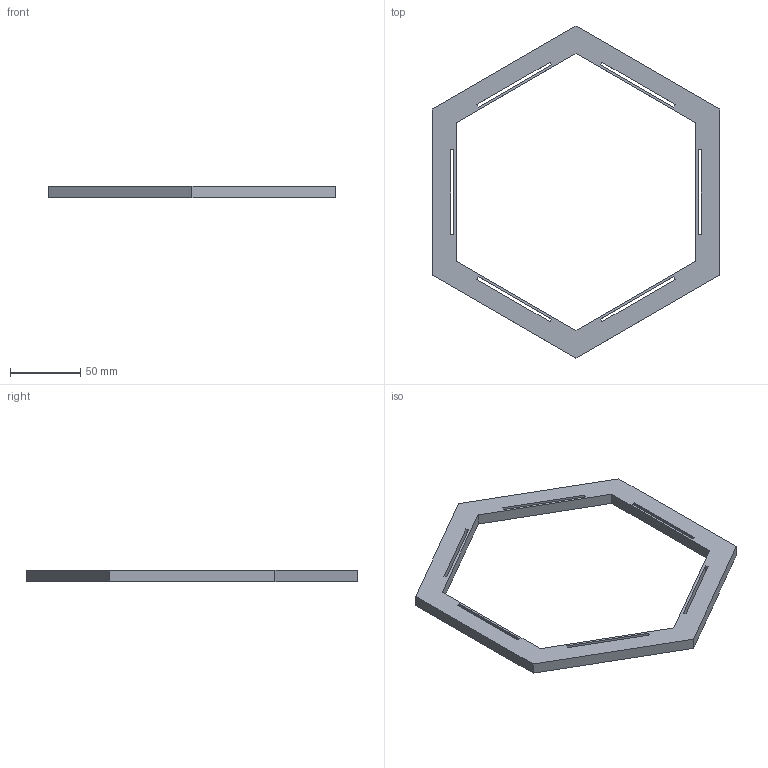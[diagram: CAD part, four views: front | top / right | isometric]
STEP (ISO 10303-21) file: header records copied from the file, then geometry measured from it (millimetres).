
FILE_DESCRIPTION(('Open CASCADE Model'),'2;1');
FILE_NAME('Open CASCADE Shape Model','2026-10-05T11:00:28',('Author'),( 'Open CASCADE'),'Open CASCADE STEP processor 7.9','Open CASCADE 7.9' ,'Unknown');
FILE_SCHEMA(('AUTOMOTIVE_DESIGN { 1 0 10303 214 1 1 1 1 }'));
Length unit declared in the file: millimetre
Products named in the file (1): Open CASCADE STEP translator 7.9 3
Bounding box: 205 x 236.71 x 8 mm (x, y, z)
Volume: 82170.8 mm3; surface area: 36991.5 mm2
Topology: 1 solids, 1 shells, 38 faces, 108 edges, 72 vertices
Faces by surface type: plane 38
Entity records: 2534 total; most frequent: CARTESIAN_POINT 555, DIRECTION 282, ORIENTED_EDGE 216, PCURVE 216, DEFINITIONAL_REPRESENTATION 216, LINE 204, VECTOR 204, B_SPLINE_CURVE_WITH_KNOTS 120
